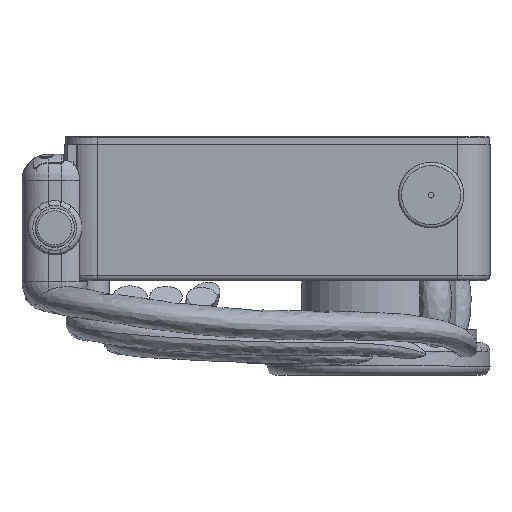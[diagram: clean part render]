
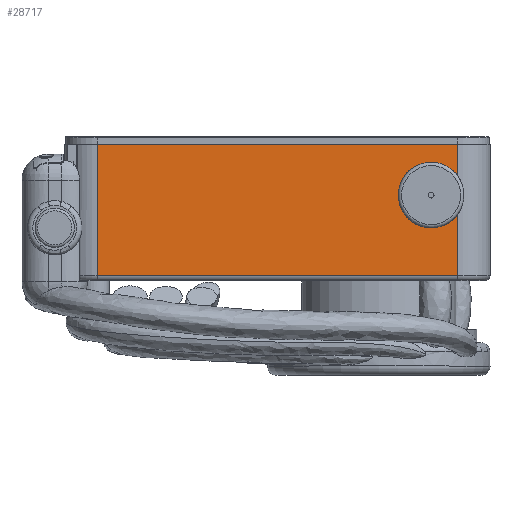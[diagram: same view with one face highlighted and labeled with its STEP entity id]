
A CAD part, top view. The second image highlights one B-rep face of the part: STEP entity #28717.
In plain terms, the highlighted planar face has unit normal (0, 0, 1).
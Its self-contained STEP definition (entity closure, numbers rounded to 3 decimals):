
#28717 = ADVANCED_FACE('',(#28718,#28837),#28732,.F.);
#28718 = FACE_BOUND('',#28719,.F.);
#28719 = EDGE_LOOP('',(#28720,#28755,#28783,#28811));
#28720 = ORIENTED_EDGE('',*,*,#28721,.T.);
#28721 = EDGE_CURVE('',#28722,#28724,#28726,.T.);
#28722 = VERTEX_POINT('',#28723);
#28723 = CARTESIAN_POINT('',(-55.,-14.6,83.));
#28724 = VERTEX_POINT('',#28725);
#28725 = CARTESIAN_POINT('',(-55.,25.5,83.));
#28726 = SURFACE_CURVE('',#28727,(#28731,#28743),.PCURVE_S1.);
#28727 = LINE('',#28728,#28729);
#28728 = CARTESIAN_POINT('',(-55.,-16.,83.));
#28729 = VECTOR('',#28730,1.);
#28730 = DIRECTION('',(0.,1.,0.));
#28731 = PCURVE('',#28732,#28737);
#28732 = PLANE('',#28733);
#28733 = AXIS2_PLACEMENT_3D('',#28734,#28735,#28736);
#28734 = CARTESIAN_POINT('',(-65.,-16.,83.));
#28735 = DIRECTION('',(0.,0.,-1.));
#28736 = DIRECTION('',(1.,0.,0.));
#28737 = DEFINITIONAL_REPRESENTATION('',(#28738),#28742);
#28738 = LINE('',#28739,#28740);
#28739 = CARTESIAN_POINT('',(10.,0.));
#28740 = VECTOR('',#28741,1.);
#28741 = DIRECTION('',(0.,-1.));
#28742 = ( GEOMETRIC_REPRESENTATION_CONTEXT(2) 
PARAMETRIC_REPRESENTATION_CONTEXT() REPRESENTATION_CONTEXT('2D SPACE',''
  ) );
#28743 = PCURVE('',#28744,#28749);
#28744 = CYLINDRICAL_SURFACE('',#28745,10.);
#28745 = AXIS2_PLACEMENT_3D('',#28746,#28747,#28748);
#28746 = CARTESIAN_POINT('',(-55.,-16.,73.));
#28747 = DIRECTION('',(0.,1.,0.));
#28748 = DIRECTION('',(0.,-0.,1.));
#28749 = DEFINITIONAL_REPRESENTATION('',(#28750),#28754);
#28750 = LINE('',#28751,#28752);
#28751 = CARTESIAN_POINT('',(6.283,0.));
#28752 = VECTOR('',#28753,1.);
#28753 = DIRECTION('',(-0.,1.));
#28754 = ( GEOMETRIC_REPRESENTATION_CONTEXT(2) 
PARAMETRIC_REPRESENTATION_CONTEXT() REPRESENTATION_CONTEXT('2D SPACE',''
  ) );
#28755 = ORIENTED_EDGE('',*,*,#28756,.T.);
#28756 = EDGE_CURVE('',#28724,#28757,#28759,.T.);
#28757 = VERTEX_POINT('',#28758);
#28758 = CARTESIAN_POINT('',(55.,25.5,83.));
#28759 = SURFACE_CURVE('',#28760,(#28764,#28771),.PCURVE_S1.);
#28760 = LINE('',#28761,#28762);
#28761 = CARTESIAN_POINT('',(-65.,25.5,83.));
#28762 = VECTOR('',#28763,1.);
#28763 = DIRECTION('',(1.,0.,0.));
#28764 = PCURVE('',#28732,#28765);
#28765 = DEFINITIONAL_REPRESENTATION('',(#28766),#28770);
#28766 = LINE('',#28767,#28768);
#28767 = CARTESIAN_POINT('',(0.,-41.5));
#28768 = VECTOR('',#28769,1.);
#28769 = DIRECTION('',(1.,0.));
#28770 = ( GEOMETRIC_REPRESENTATION_CONTEXT(2) 
PARAMETRIC_REPRESENTATION_CONTEXT() REPRESENTATION_CONTEXT('2D SPACE',''
  ) );
#28771 = PCURVE('',#28772,#28777);
#28772 = PLANE('',#28773);
#28773 = AXIS2_PLACEMENT_3D('',#28774,#28775,#28776);
#28774 = CARTESIAN_POINT('',(0.,25.5,44.));
#28775 = DIRECTION('',(0.,1.,0.));
#28776 = DIRECTION('',(0.,-0.,1.));
#28777 = DEFINITIONAL_REPRESENTATION('',(#28778),#28782);
#28778 = LINE('',#28779,#28780);
#28779 = CARTESIAN_POINT('',(39.,-65.));
#28780 = VECTOR('',#28781,1.);
#28781 = DIRECTION('',(0.,1.));
#28782 = ( GEOMETRIC_REPRESENTATION_CONTEXT(2) 
PARAMETRIC_REPRESENTATION_CONTEXT() REPRESENTATION_CONTEXT('2D SPACE',''
  ) );
#28783 = ORIENTED_EDGE('',*,*,#28784,.F.);
#28784 = EDGE_CURVE('',#28785,#28757,#28787,.T.);
#28785 = VERTEX_POINT('',#28786);
#28786 = CARTESIAN_POINT('',(55.,-14.6,83.));
#28787 = SURFACE_CURVE('',#28788,(#28792,#28799),.PCURVE_S1.);
#28788 = LINE('',#28789,#28790);
#28789 = CARTESIAN_POINT('',(55.,-16.,83.));
#28790 = VECTOR('',#28791,1.);
#28791 = DIRECTION('',(0.,1.,0.));
#28792 = PCURVE('',#28732,#28793);
#28793 = DEFINITIONAL_REPRESENTATION('',(#28794),#28798);
#28794 = LINE('',#28795,#28796);
#28795 = CARTESIAN_POINT('',(120.,0.));
#28796 = VECTOR('',#28797,1.);
#28797 = DIRECTION('',(0.,-1.));
#28798 = ( GEOMETRIC_REPRESENTATION_CONTEXT(2) 
PARAMETRIC_REPRESENTATION_CONTEXT() REPRESENTATION_CONTEXT('2D SPACE',''
  ) );
#28799 = PCURVE('',#28800,#28805);
#28800 = CYLINDRICAL_SURFACE('',#28801,10.);
#28801 = AXIS2_PLACEMENT_3D('',#28802,#28803,#28804);
#28802 = CARTESIAN_POINT('',(55.,-16.,73.));
#28803 = DIRECTION('',(0.,1.,0.));
#28804 = DIRECTION('',(0.,-0.,1.));
#28805 = DEFINITIONAL_REPRESENTATION('',(#28806),#28810);
#28806 = LINE('',#28807,#28808);
#28807 = CARTESIAN_POINT('',(0.,0.));
#28808 = VECTOR('',#28809,1.);
#28809 = DIRECTION('',(0.,1.));
#28810 = ( GEOMETRIC_REPRESENTATION_CONTEXT(2) 
PARAMETRIC_REPRESENTATION_CONTEXT() REPRESENTATION_CONTEXT('2D SPACE',''
  ) );
#28811 = ORIENTED_EDGE('',*,*,#28812,.F.);
#28812 = EDGE_CURVE('',#28722,#28785,#28813,.T.);
#28813 = SURFACE_CURVE('',#28814,(#28818,#28825),.PCURVE_S1.);
#28814 = LINE('',#28815,#28816);
#28815 = CARTESIAN_POINT('',(-55.,-14.6,83.));
#28816 = VECTOR('',#28817,1.);
#28817 = DIRECTION('',(1.,0.,0.));
#28818 = PCURVE('',#28732,#28819);
#28819 = DEFINITIONAL_REPRESENTATION('',(#28820),#28824);
#28820 = LINE('',#28821,#28822);
#28821 = CARTESIAN_POINT('',(10.,-1.4));
#28822 = VECTOR('',#28823,1.);
#28823 = DIRECTION('',(1.,0.));
#28824 = ( GEOMETRIC_REPRESENTATION_CONTEXT(2) 
PARAMETRIC_REPRESENTATION_CONTEXT() REPRESENTATION_CONTEXT('2D SPACE',''
  ) );
#28825 = PCURVE('',#28826,#28831);
#28826 = CYLINDRICAL_SURFACE('',#28827,1.4);
#28827 = AXIS2_PLACEMENT_3D('',#28828,#28829,#28830);
#28828 = CARTESIAN_POINT('',(-55.,-14.6,81.6));
#28829 = DIRECTION('',(1.,0.,0.));
#28830 = DIRECTION('',(0.,-0.,1.));
#28831 = DEFINITIONAL_REPRESENTATION('',(#28832),#28836);
#28832 = LINE('',#28833,#28834);
#28833 = CARTESIAN_POINT('',(0.,0.));
#28834 = VECTOR('',#28835,1.);
#28835 = DIRECTION('',(0.,1.));
#28836 = ( GEOMETRIC_REPRESENTATION_CONTEXT(2) 
PARAMETRIC_REPRESENTATION_CONTEXT() REPRESENTATION_CONTEXT('2D SPACE',''
  ) );
#28837 = FACE_BOUND('',#28838,.F.);
#28838 = EDGE_LOOP('',(#28839));
#28839 = ORIENTED_EDGE('',*,*,#28840,.F.);
#28840 = EDGE_CURVE('',#28841,#28841,#28843,.T.);
#28841 = VERTEX_POINT('',#28842);
#28842 = CARTESIAN_POINT('',(50.3,10.,83.));
#28843 = SURFACE_CURVE('',#28844,(#28849,#28856),.PCURVE_S1.);
#28844 = CIRCLE('',#28845,3.3);
#28845 = AXIS2_PLACEMENT_3D('',#28846,#28847,#28848);
#28846 = CARTESIAN_POINT('',(47.,10.,83.));
#28847 = DIRECTION('',(0.,0.,-1.));
#28848 = DIRECTION('',(1.,0.,0.));
#28849 = PCURVE('',#28732,#28850);
#28850 = DEFINITIONAL_REPRESENTATION('',(#28851),#28855);
#28851 = CIRCLE('',#28852,3.3);
#28852 = AXIS2_PLACEMENT_2D('',#28853,#28854);
#28853 = CARTESIAN_POINT('',(112.,-26.));
#28854 = DIRECTION('',(1.,0.));
#28855 = ( GEOMETRIC_REPRESENTATION_CONTEXT(2) 
PARAMETRIC_REPRESENTATION_CONTEXT() REPRESENTATION_CONTEXT('2D SPACE',''
  ) );
#28856 = PCURVE('',#28857,#28862);
#28857 = CYLINDRICAL_SURFACE('',#28858,3.3);
#28858 = AXIS2_PLACEMENT_3D('',#28859,#28860,#28861);
#28859 = CARTESIAN_POINT('',(47.,10.,77.));
#28860 = DIRECTION('',(-0.,-0.,-1.));
#28861 = DIRECTION('',(1.,0.,0.));
#28862 = DEFINITIONAL_REPRESENTATION('',(#28863),#28867);
#28863 = LINE('',#28864,#28865);
#28864 = CARTESIAN_POINT('',(0.,-6.));
#28865 = VECTOR('',#28866,1.);
#28866 = DIRECTION('',(1.,-0.));
#28867 = ( GEOMETRIC_REPRESENTATION_CONTEXT(2) 
PARAMETRIC_REPRESENTATION_CONTEXT() REPRESENTATION_CONTEXT('2D SPACE',''
  ) );
